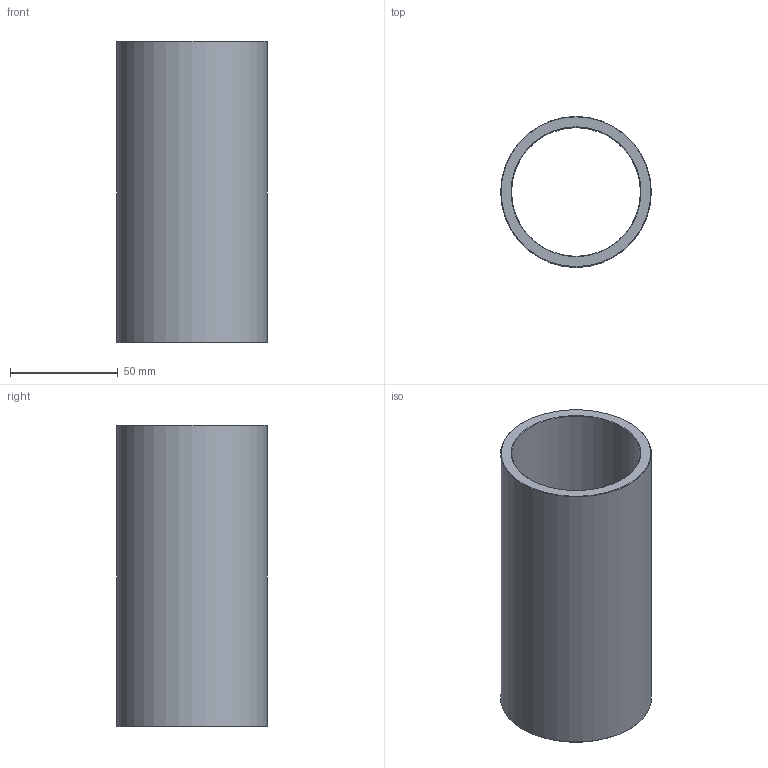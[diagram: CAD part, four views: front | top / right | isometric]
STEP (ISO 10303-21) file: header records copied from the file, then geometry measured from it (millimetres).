
FILE_DESCRIPTION(('STEP AP203'),'1');
FILE_NAME('C:/Users/Rodrigo/Desktop/GA5.060.140-1.step','2016-11-08T12:44:22',(' '),(' '),'Spatial InterOp 3D',' ',' ');
FILE_SCHEMA(('CONFIG_CONTROL_DESIGN'));
Length unit declared in the file: millimetre
Products named in the file (1): 1
Bounding box: 70 x 70 x 140 mm (x, y, z)
Volume: 142926.1 mm3; surface area: 59123.3 mm2
Topology: 1 solids, 1 shells, 8 faces, 14 edges, 8 vertices
Faces by surface type: cone 4, cylinder 2, plane 2
Full cylindrical faces by diameter (mm): 60 x1, 70 x1
Entity records: 212 total; most frequent: DIRECTION 34, CARTESIAN_POINT 25, AXIS2_PLACEMENT_3D 17, EDGE_LOOP 16, ORIENTED_EDGE 16, FACE_OUTER_BOUND 10, ADVANCED_FACE 8, EDGE_CURVE 8
